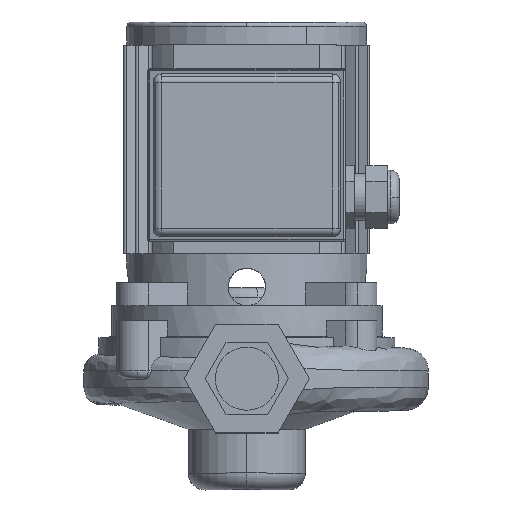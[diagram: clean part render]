
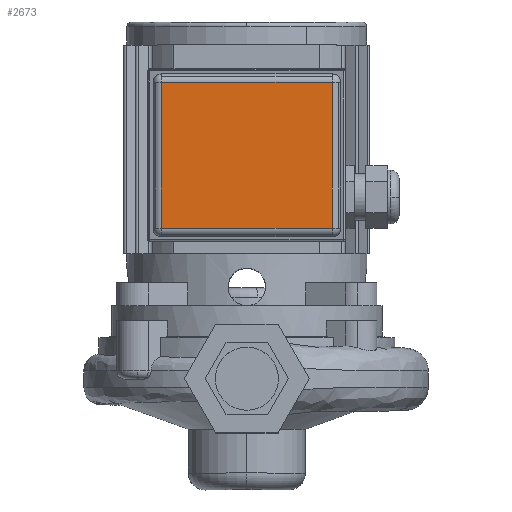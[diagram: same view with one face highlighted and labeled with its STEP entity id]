
A CAD part, top view. The second image highlights one B-rep face of the part: STEP entity #2673.
In plain terms, the highlighted planar face has unit normal (0, 0, 1).
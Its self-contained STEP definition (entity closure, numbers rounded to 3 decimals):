
#2673=ADVANCED_FACE('',(#5924),#5925,.T.);
#2927=EDGE_CURVE('',#6329,#6333,#6334,.T.);
#2933=EDGE_CURVE('',#6339,#6329,#6343,.T.);
#2939=EDGE_CURVE('',#6348,#6339,#6352,.T.);
#2969=EDGE_CURVE('',#6333,#6348,#6397,.T.);
#5924=FACE_OUTER_BOUND('',#10305,.T.);
#5925=PLANE('',#10306);
#6329=VERTEX_POINT('',#10782);
#6333=VERTEX_POINT('',#10787);
#6334=LINE('',#10788,#10789);
#6339=VERTEX_POINT('',#10796);
#6343=LINE('',#10801,#10802);
#6348=VERTEX_POINT('',#10809);
#6352=LINE('',#10814,#10815);
#6397=LINE('',#10879,#10880);
#10305=EDGE_LOOP('',(#19013,#19014,#19015,#19016));
#10306=AXIS2_PLACEMENT_3D('',#19017,#19018,#19019);
#10782=CARTESIAN_POINT('',(-118.45,13.63,147.23));
#10787=CARTESIAN_POINT('',(-118.45,83.63,147.23));
#10788=CARTESIAN_POINT('',(-118.45,13.63,147.23));
#10789=VECTOR('',#19760,1.0);
#10796=CARTESIAN_POINT('',(-36.45,13.63,147.23));
#10801=CARTESIAN_POINT('',(-36.45,13.63,147.23));
#10802=VECTOR('',#19767,1.0);
#10809=CARTESIAN_POINT('',(-36.45,83.63,147.23));
#10814=CARTESIAN_POINT('',(-36.45,83.63,147.23));
#10815=VECTOR('',#19774,1.0);
#10879=CARTESIAN_POINT('',(-118.45,83.63,147.23));
#10880=VECTOR('',#19809,1.0);
#19013=ORIENTED_EDGE('',*,*,#2939,.F.);
#19014=ORIENTED_EDGE('',*,*,#2969,.F.);
#19015=ORIENTED_EDGE('',*,*,#2927,.F.);
#19016=ORIENTED_EDGE('',*,*,#2933,.F.);
#19017=CARTESIAN_POINT('',(-122.45,87.63,147.23));
#19018=DIRECTION('',(0.0,0.0,1.0));
#19019=DIRECTION('',(1.0,0.0,0.0));
#19760=DIRECTION('',(0.0,1.0,0.));
#19767=DIRECTION('',(-1.0,0.0,0.0));
#19774=DIRECTION('',(0.0,-1.0,0.));
#19809=DIRECTION('',(1.0,0.0,0.0));
